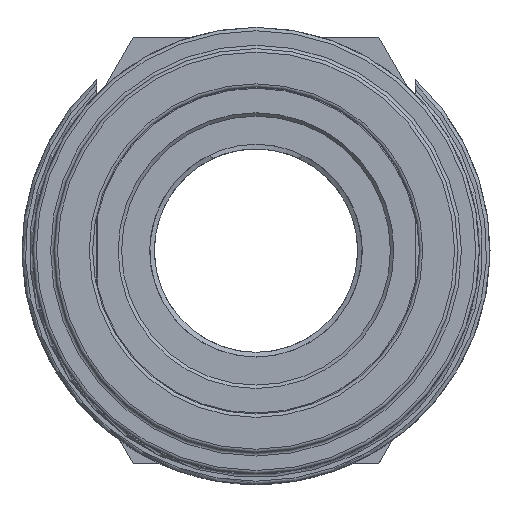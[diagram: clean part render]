
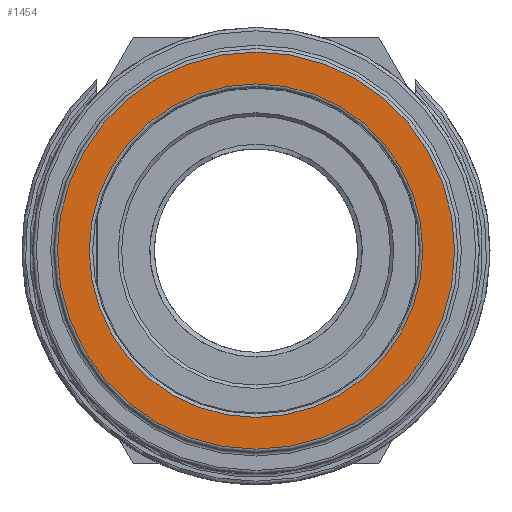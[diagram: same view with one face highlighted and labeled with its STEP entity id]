
A CAD part, front view. The second image highlights one B-rep face of the part: STEP entity #1454.
In plain terms, the highlighted planar face has unit normal (0, -1, 0).
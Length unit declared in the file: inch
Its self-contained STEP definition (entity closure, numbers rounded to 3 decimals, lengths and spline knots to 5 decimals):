
#30=FACE_BOUND('',#222,.T.);
#142=FACE_OUTER_BOUND('',#221,.T.);
#221=EDGE_LOOP('',(#1038,#1039));
#222=EDGE_LOOP('',(#1040,#1041));
#492=CIRCLE('',#1569,0.49);
#493=CIRCLE('',#1570,0.49);
#495=CIRCLE('',#1573,0.5835);
#496=CIRCLE('',#1574,0.5835);
#603=VERTEX_POINT('',#2311);
#604=VERTEX_POINT('',#2313);
#605=VERTEX_POINT('',#2318);
#606=VERTEX_POINT('',#2319);
#772=EDGE_CURVE('',#603,#604,#492,.T.);
#773=EDGE_CURVE('',#604,#603,#493,.T.);
#775=EDGE_CURVE('',#605,#606,#495,.T.);
#776=EDGE_CURVE('',#606,#605,#496,.T.);
#1038=ORIENTED_EDGE('',*,*,#775,.F.);
#1039=ORIENTED_EDGE('',*,*,#776,.F.);
#1040=ORIENTED_EDGE('',*,*,#773,.F.);
#1041=ORIENTED_EDGE('',*,*,#772,.F.);
#1413=PLANE('',#1572);
#1454=ADVANCED_FACE('',(#142,#30),#1413,.T.);
#1569=AXIS2_PLACEMENT_3D('',#2314,#1809,#1810);
#1570=AXIS2_PLACEMENT_3D('',#2315,#1811,#1812);
#1572=AXIS2_PLACEMENT_3D('',#2317,#1815,#1816);
#1573=AXIS2_PLACEMENT_3D('',#2320,#1817,#1818);
#1574=AXIS2_PLACEMENT_3D('',#2321,#1819,#1820);
#1809=DIRECTION('center_axis',(0.,-1.,0.));
#1810=DIRECTION('ref_axis',(0.,0.,1.));
#1811=DIRECTION('center_axis',(0.,-1.,0.));
#1812=DIRECTION('ref_axis',(0.,0.,1.));
#1815=DIRECTION('center_axis',(0.,-1.,0.));
#1816=DIRECTION('ref_axis',(0.,0.,-1.));
#1817=DIRECTION('center_axis',(0.,1.,0.));
#1818=DIRECTION('ref_axis',(0.,0.,1.));
#1819=DIRECTION('center_axis',(0.,1.,0.));
#1820=DIRECTION('ref_axis',(0.,0.,1.));
#2311=CARTESIAN_POINT('',(0.,0.,0.49));
#2313=CARTESIAN_POINT('',(0.,0.,-0.49));
#2314=CARTESIAN_POINT('Origin',(0.,0.,0.));
#2315=CARTESIAN_POINT('Origin',(0.,0.,0.));
#2317=CARTESIAN_POINT('Origin',(0.,0.,-0.48));
#2318=CARTESIAN_POINT('',(0.,0.,-0.5835));
#2319=CARTESIAN_POINT('',(0.,0.,0.5835));
#2320=CARTESIAN_POINT('Origin',(0.,0.,0.));
#2321=CARTESIAN_POINT('Origin',(0.,0.,0.));
